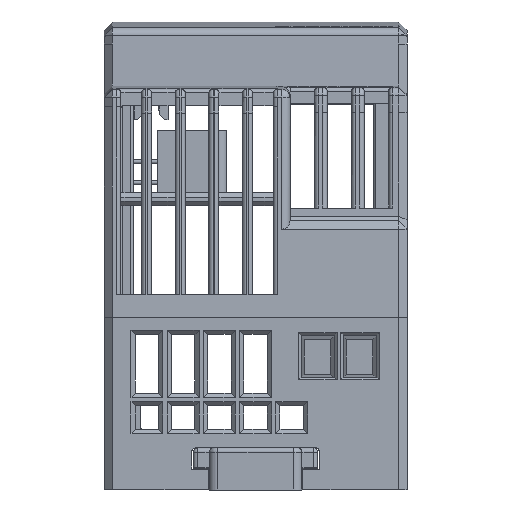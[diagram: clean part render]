
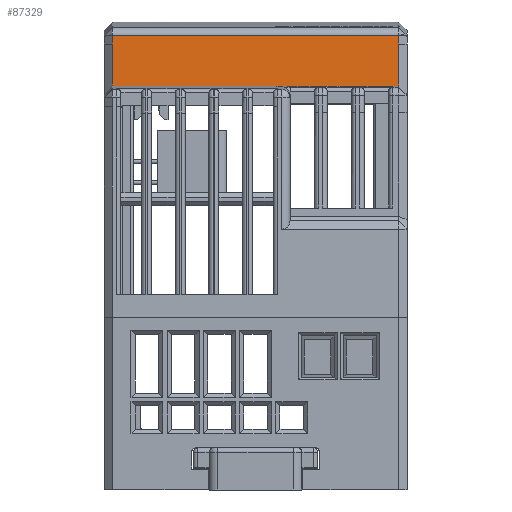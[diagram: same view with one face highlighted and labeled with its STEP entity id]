
A CAD part, front view. The second image highlights one B-rep face of the part: STEP entity #87329.
In plain terms, the highlighted planar face has unit normal (0, -0.999, 0.034) as drawn and (-0.034, 0, 0.999) by its records, which use the part's own axes.
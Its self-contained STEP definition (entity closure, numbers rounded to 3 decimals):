
#961 = EDGE_CURVE ( 'NONE', #72491, #35154, #18514, .T. ) ;
#5717 = ORIENTED_EDGE ( 'NONE', *, *, #90887, .T. ) ;
#5737 = ORIENTED_EDGE ( 'NONE', *, *, #961, .F. ) ;
#5980 = ORIENTED_EDGE ( 'NONE', *, *, #24334, .T. ) ;
#6285 = EDGE_CURVE ( 'NONE', #72491, #60996, #57906, .T. ) ;
#8257 = CARTESIAN_POINT ( 'NONE',  ( -21.963, 35., -22.944 ) ) ;
#8665 = VERTEX_POINT ( 'NONE', #72082 ) ;
#10840 = CARTESIAN_POINT ( 'NONE',  ( -21.729, 35., -22.936 ) ) ;
#12225 = VERTEX_POINT ( 'NONE', #68150 ) ;
#16712 = DIRECTION ( 'NONE',  ( 0., -1., 0. ) ) ;
#18112 = DIRECTION ( 'NONE',  ( -0.999, 0., -0.034 ) ) ;
#18514 = LINE ( 'NONE', #93740, #68247 ) ;
#23124 = VECTOR ( 'NONE', #26956, 1000. ) ;
#23185 = ORIENTED_EDGE ( 'NONE', *, *, #6285, .T. ) ;
#24334 = EDGE_CURVE ( 'NONE', #8665, #35154, #77352, .T. ) ;
#26004 = VECTOR ( 'NONE', #16712, 1000. ) ;
#26956 = DIRECTION ( 'NONE',  ( 0.999, 0., 0.034 ) ) ;
#27180 = LINE ( 'NONE', #30862, #26004 ) ;
#27353 = LINE ( 'NONE', #71717, #63547 ) ;
#30862 = CARTESIAN_POINT ( 'NONE',  ( -21.963, 36., -22.944 ) ) ;
#30869 = DIRECTION ( 'NONE',  ( -0.999, 0., -0.034 ) ) ;
#35154 = VERTEX_POINT ( 'NONE', #57020 ) ;
#39472 = AXIS2_PLACEMENT_3D ( 'NONE', #52109, #44809, #30869 ) ;
#44809 = DIRECTION ( 'NONE',  ( 0.034, 0., -0.999 ) ) ;
#49713 = CARTESIAN_POINT ( 'NONE',  ( -15.992, 1., -22.739 ) ) ;
#52109 = CARTESIAN_POINT ( 'NONE',  ( -15.992, 36., -22.739 ) ) ;
#54403 = LINE ( 'NONE', #91171, #71354 ) ;
#55742 = DIRECTION ( 'NONE',  ( 0.999, 0., 0.034 ) ) ;
#57020 = CARTESIAN_POINT ( 'NONE',  ( -15.992, 1., -22.739 ) ) ;
#57906 = LINE ( 'NONE', #10840, #73805 ) ;
#59355 = PLANE ( 'NONE',  #39472 ) ;
#60996 = VERTEX_POINT ( 'NONE', #81180 ) ;
#62797 = EDGE_CURVE ( 'NONE', #67470, #12225, #27180, .T. ) ;
#62971 = FACE_OUTER_BOUND ( 'NONE', #68296, .T. ) ;
#63547 = VECTOR ( 'NONE', #72676, 1000. ) ;
#67470 = VERTEX_POINT ( 'NONE', #8257 ) ;
#67678 = EDGE_CURVE ( 'NONE', #12225, #8665, #54403, .T. ) ;
#68150 = CARTESIAN_POINT ( 'NONE',  ( -21.963, 1., -22.944 ) ) ;
#68247 = VECTOR ( 'NONE', #72867, 1000. ) ;
#68296 = EDGE_LOOP ( 'NONE', ( #5980, #5737, #23185, #5717, #70646, #71138 ) ) ;
#70646 = ORIENTED_EDGE ( 'NONE', *, *, #62797, .T. ) ;
#71138 = ORIENTED_EDGE ( 'NONE', *, *, #67678, .T. ) ;
#71354 = VECTOR ( 'NONE', #55742, 1000. ) ;
#71717 = CARTESIAN_POINT ( 'NONE',  ( -21.963, 35., -22.944 ) ) ;
#72082 = CARTESIAN_POINT ( 'NONE',  ( -20.981, 1., -22.91 ) ) ;
#72491 = VERTEX_POINT ( 'NONE', #73109 ) ;
#72676 = DIRECTION ( 'NONE',  ( -0.999, 0., -0.034 ) ) ;
#72867 = DIRECTION ( 'NONE',  ( 0., -1., 0. ) ) ;
#73109 = CARTESIAN_POINT ( 'NONE',  ( -15.992, 35., -22.739 ) ) ;
#73805 = VECTOR ( 'NONE', #18112, 1000. ) ;
#77352 = LINE ( 'NONE', #49713, #23124 ) ;
#81180 = CARTESIAN_POINT ( 'NONE',  ( -20.981, 35., -22.91 ) ) ;
#87329 = ADVANCED_FACE ( 'NONE', ( #62971 ), #59355, .F. ) ;
#90887 = EDGE_CURVE ( 'NONE', #60996, #67470, #27353, .T. ) ;
#91171 = CARTESIAN_POINT ( 'NONE',  ( -15.992, 1., -22.739 ) ) ;
#93740 = CARTESIAN_POINT ( 'NONE',  ( -15.992, 36., -22.739 ) ) ;
